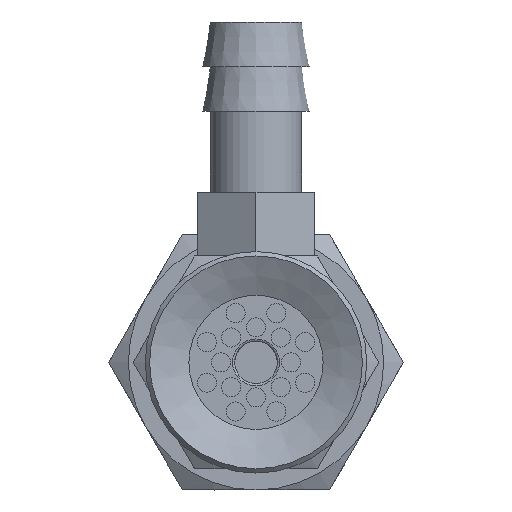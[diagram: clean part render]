
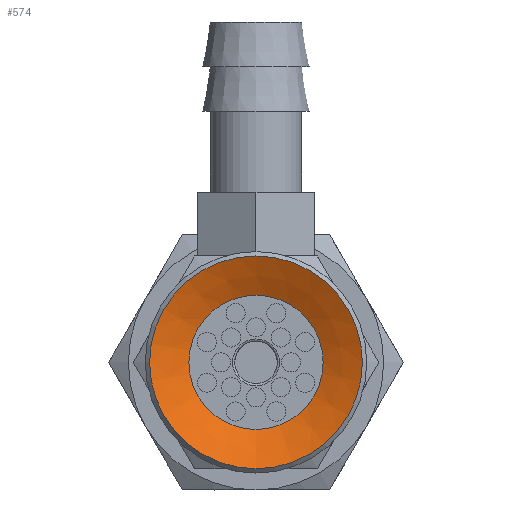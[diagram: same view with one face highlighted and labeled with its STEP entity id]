
A CAD part, front view. The second image highlights one B-rep face of the part: STEP entity #574.
In plain terms, the highlighted conical face has half-angle 64 degrees and reference radius 5 mm.
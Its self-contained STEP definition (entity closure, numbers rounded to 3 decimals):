
#574=ADVANCED_FACE('',(#912,#913),#914,.F.);
#912=FACE_BOUND('',#1343,.T.);
#913=FACE_OUTER_BOUND('',#1344,.T.);
#914=CONICAL_SURFACE('',#1345,5.0,1.117);
#1343=EDGE_LOOP('',(#2287));
#1344=EDGE_LOOP('',(#2288));
#1345=AXIS2_PLACEMENT_3D('',#2289,#2290,#2291);
#2287=ORIENTED_EDGE('',*,*,#2748,.T.);
#2288=ORIENTED_EDGE('',*,*,#2749,.F.);
#2289=CARTESIAN_POINT('',(0.0,0.,0.));
#2290=DIRECTION('',(0.0,0.,-1.0));
#2291=DIRECTION('',(0.0,1.0,0.));
#2748=EDGE_CURVE('',#3176,#3176,#3177,.T.);
#2749=EDGE_CURVE('',#3178,#3178,#3179,.T.);
#3176=VERTEX_POINT('',#4090);
#3177=CIRCLE('',#4091,3.155);
#3178=VERTEX_POINT('',#4092);
#3179=CIRCLE('',#4093,5.0);
#4090=CARTESIAN_POINT('',(0.0,-3.155,0.9));
#4091=AXIS2_PLACEMENT_3D('',#4506,#4507,#4508);
#4092=CARTESIAN_POINT('',(0.0,-5.0,0.));
#4093=AXIS2_PLACEMENT_3D('',#4509,#4510,#4511);
#4506=CARTESIAN_POINT('',(0.0,0.,0.9));
#4507=DIRECTION('',(0.0,0.,1.0));
#4508=DIRECTION('',(0.0,-1.0,0.));
#4509=CARTESIAN_POINT('',(0.0,0.,0.));
#4510=DIRECTION('',(0.0,0.,1.0));
#4511=DIRECTION('',(0.0,-1.0,0.));
